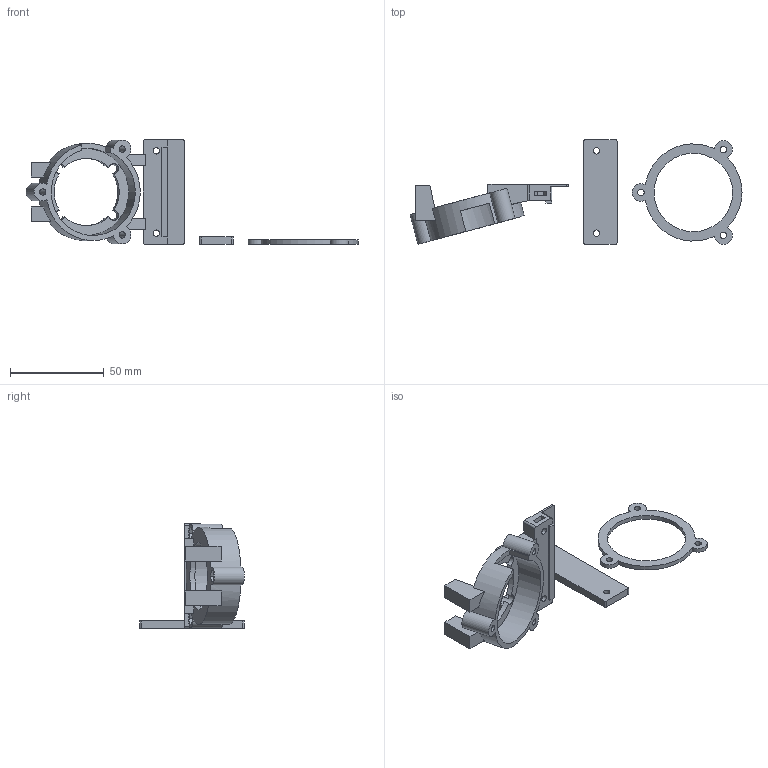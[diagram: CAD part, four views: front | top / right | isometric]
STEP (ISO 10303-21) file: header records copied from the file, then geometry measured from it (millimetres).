
FILE_DESCRIPTION(('Open CASCADE Model'),'2;1');
FILE_NAME('Open CASCADE Shape Model','2026-09-09T13:59:16',('Author'),( 'Open CASCADE'),'Open CASCADE STEP processor 7.9','Open CASCADE 7.9' ,'Unknown');
FILE_SCHEMA(('AUTOMOTIVE_DESIGN { 1 0 10303 214 1 1 1 1 }'));
Length unit declared in the file: millimetre
Products named in the file (4): Open CASCADE STEP translator 7.9 4; Open CASCADE STEP translator 7.9 4.1; Open CASCADE STEP translator 7.9 4.2; Open CASCADE STEP translator 7.9 4.3
Assembly tree (3 placements, depth 2):
  Open CASCADE STEP translator 7.9 4
    Open CASCADE STEP translator 7.9 4.1
    Open CASCADE STEP translator 7.9 4.2
    Open CASCADE STEP translator 7.9 4.3
Bounding box: 177.48 x 56 x 56 mm (x, y, z)
Volume: 27448 mm3; surface area: 19600.2 mm2
Topology: 3 solids, 3 shells, 132 faces, 372 edges, 248 vertices
Faces by surface type: plane 84, cylinder 44, bspline 4
Full cylindrical faces by diameter (mm): 3.4 x12, 42 x1, 46.5 x1
Entity records: 9643 total; most frequent: CARTESIAN_POINT 2212, DIRECTION 1371, LINE 846, VECTOR 846, ORIENTED_EDGE 744, PCURVE 744, DEFINITIONAL_REPRESENTATION 744, EDGE_CURVE 372
